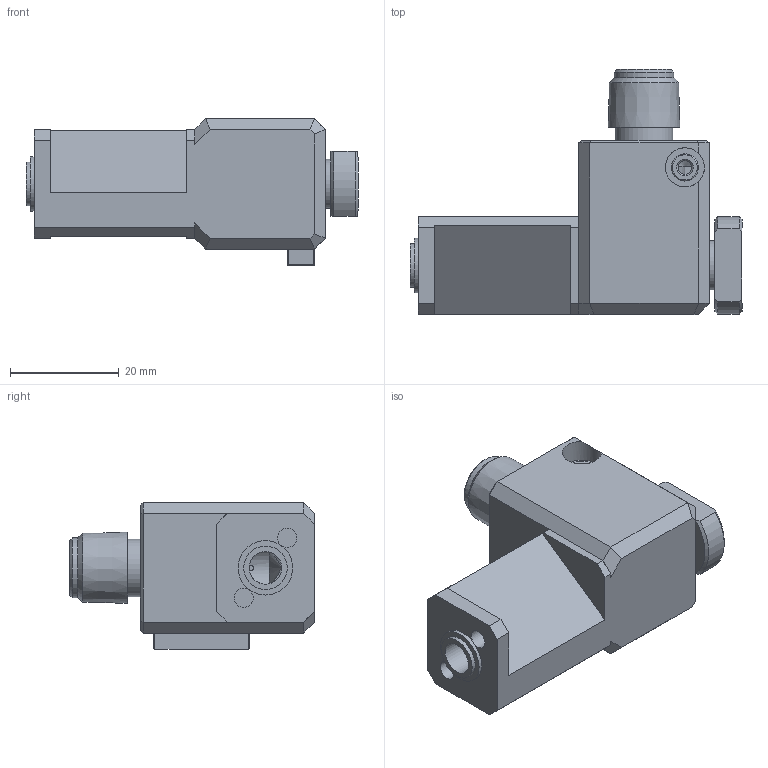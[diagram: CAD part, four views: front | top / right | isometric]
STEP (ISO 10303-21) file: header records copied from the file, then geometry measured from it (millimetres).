
FILE_DESCRIPTION (( 'STEP AP214' ), '1' );
FILE_NAME ('PCPM-SEMCO-S.STEP', '2024-10-14T09:57:19', ( '' ), ( '' ), 'SwSTEP 2.0', 'SolidWorks 2024', '' );
FILE_SCHEMA (( 'AUTOMOTIVE_DESIGN' ));
Length unit declared in the file: millimetre
Products named in the file (1): PCPM-SEMCO-S
Bounding box: 61 x 45 x 27 mm (x, y, z)
Volume: 22241.3 mm3; surface area: 12493.1 mm2
Topology: 4 solids, 4 shells, 188 faces, 451 edges, 288 vertices
Faces by surface type: plane 107, cylinder 49, cone 26, bspline 6
Full cylindrical faces by diameter (mm): 1 x1, 2 x2, 2.5 x1, 3.5 x2, 4 x2, 5 x2, 5.2 x1, 6 x1, 6.6 x2, 6.8 x1, 7.2 x1, 8 x3, 9 x3, 10 x1, 10.2 x1, 10.6 x1, 11 x1, 13 x3, 16.2 x1, 17 x1, 17.2 x1
Entity records: 6233 total; most frequent: CARTESIAN_POINT 2115, DIRECTION 820, ORIENTED_EDGE 768, EDGE_CURVE 384, AXIS2_PLACEMENT_3D 306, EDGE_LOOP 275, VERTEX_POINT 273, FACE_OUTER_BOUND 222
